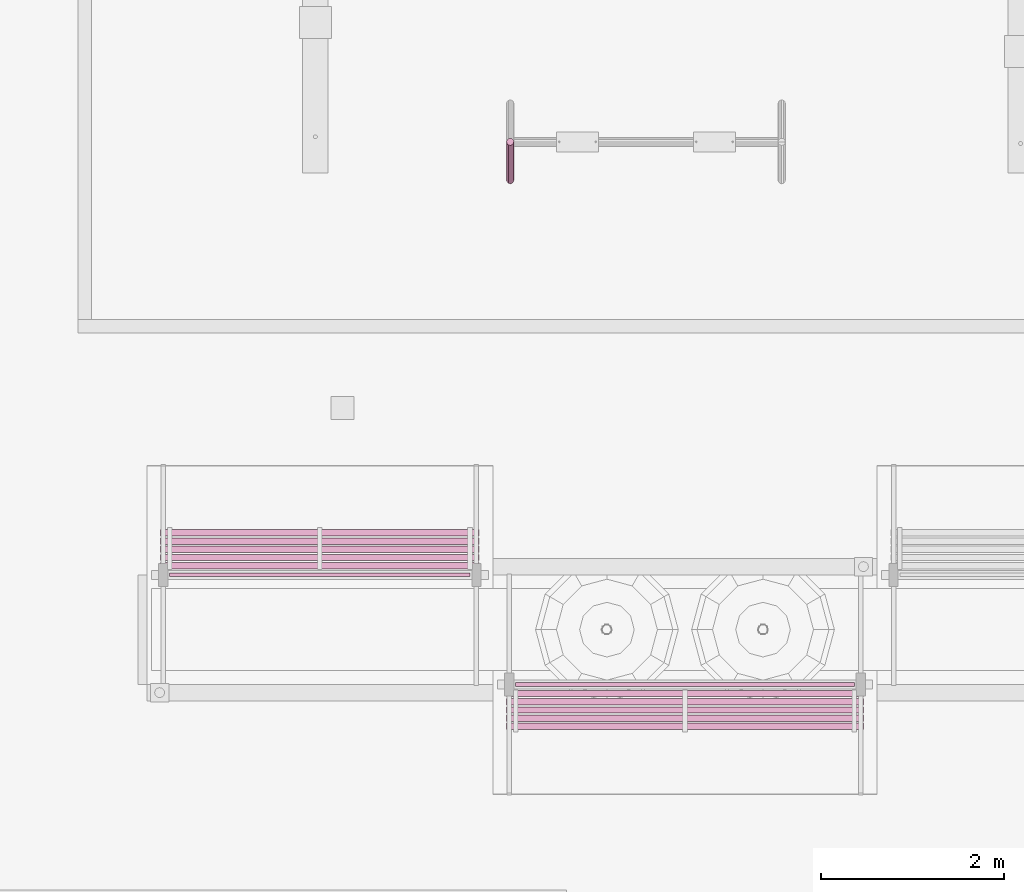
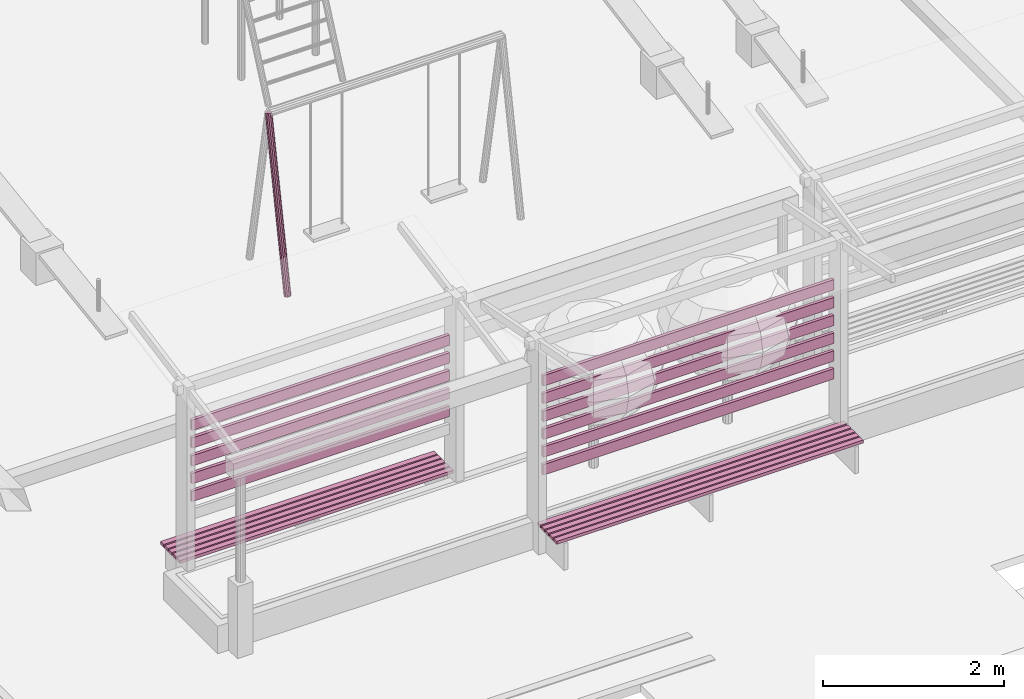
# One storey, part 144 of 177: 22 furnishings.
"""IFC4 building model written with IfcOpenShell, lengths in metres."""

from ifc_helpers import new_model, si_unit, origin, origin_with_axes, place, context, subcontext, project, spatial, triangles, element, save


model = new_model("IFC4")

# Units and contexts
model_context = context("Model", 3, precision=1e-05, world=origin_with_axes())
body_context = subcontext(model_context, "Body", "Model", "MODEL_VIEW")
ifc_project = project(units=[si_unit("LENGTHUNIT", "METRE"), si_unit("AREAUNIT", "SQUARE_METRE"), si_unit("VOLUMEUNIT", "CUBIC_METRE"), si_unit("PLANEANGLEUNIT", "RADIAN")], contexts=[model_context])

# Site, building, storey
site_placement = place(None, origin_with_axes())
site = spatial("IfcSite", under=ifc_project, at=site_placement, Name="Predio Los Mangos - Morales, San Martín", CompositionType="ELEMENT")
building_placement = place(site_placement, origin())
building = spatial("IfcBuilding", under=site, at=building_placement, Name="Hogar de Refugio Temporal", CompositionType="ELEMENT")
storey_placement = place(building_placement, origin())
storey = spatial("IfcBuildingStorey", under=building, at=storey_placement, Name="NIVEL 1 (NPT +0.00)", CompositionType="ELEMENT", Elevation=0.0)

# Furnishings
furnishing_1_placement = place(storey_placement, origin())
element("IfcFurnishingElement", 1, at=furnishing_1_placement, inside=storey, Name="columpio_pata", ObjectType="Mobiliario exterior / juegos", context=body_context, shape_type="Tessellation", body=[
    triangles([(32.885, 79.2847, 0.1374), (32.885, 79.7047, 2.3574), (32.865, 79.29, 0.1364), (32.865, 79.71, 2.3564), (32.8504, 79.3043, 0.1337), (32.8504, 79.7243, 2.3537), (32.845, 79.324, 0.13), (32.845, 79.744, 2.35), (32.8504, 79.3436, 0.1263), (32.8504, 79.7636, 2.3463), (32.865, 79.358, 0.1236), (32.865, 79.778, 2.3436), (32.885, 79.3633, 0.1226), (32.885, 79.7833, 2.3426), (32.905, 79.358, 0.1236), (32.905, 79.778, 2.3436), (32.9196, 79.3436, 0.1263), (32.9196, 79.7636, 2.3463), (32.925, 79.324, 0.13), (32.925, 79.744, 2.35), (32.9196, 79.3043, 0.1337), (32.9196, 79.7243, 2.3537), (32.905, 79.29, 0.1364), (32.905, 79.71, 2.3564)], [[1, 2, 4], [1, 4, 3], [3, 4, 6], [3, 6, 5], [5, 6, 8], [5, 8, 7], [7, 8, 10], [7, 10, 9], [9, 10, 12], [9, 12, 11], [11, 12, 14], [11, 14, 13], [13, 14, 16], [13, 16, 15], [15, 16, 18], [15, 18, 17], [17, 18, 20], [17, 20, 19], [19, 20, 22], [19, 22, 21], [6, 4, 2], [2, 24, 22], [22, 20, 18], [18, 16, 14], [14, 12, 10], [10, 8, 6], [6, 2, 22], [22, 18, 14], [14, 10, 6], [22, 14, 6], [21, 22, 24], [21, 24, 23], [23, 24, 2], [23, 2, 1], [23, 1, 3], [3, 5, 7], [7, 9, 11], [11, 13, 15], [15, 17, 19], [19, 21, 23], [23, 3, 7], [7, 11, 15], [15, 19, 23], [7, 15, 23]]),
])
furnishing_2_placement = place(storey_placement, origin())
element("IfcFurnishingElement", 2, at=furnishing_2_placement, inside=storey, Name="oc01_celosia", ObjectType="Mobiliario exterior / juegos", context=body_context, shape_type="Tessellation", body=[
    triangles([(36.655, 73.82, 1.05), (32.945, 73.82, 1.05), (32.945, 73.78, 1.05), (36.655, 73.78, 1.05), (36.655, 73.82, 1.19), (32.945, 73.82, 1.19), (32.945, 73.78, 1.19), (36.655, 73.78, 1.19)], [[1, 4, 3], [1, 3, 2], [5, 6, 7], [5, 7, 8], [1, 2, 6], [1, 6, 5], [2, 3, 7], [2, 7, 6], [3, 4, 8], [3, 8, 7], [4, 1, 5], [4, 5, 8]]),
])
furnishing_3_placement = place(storey_placement, origin())
element("IfcFurnishingElement", 3, at=furnishing_3_placement, inside=storey, Name="oc01_celosia", ObjectType="Mobiliario exterior / juegos", context=body_context, shape_type="Tessellation", body=[
    triangles([(36.655, 73.82, 1.29), (32.945, 73.82, 1.29), (32.945, 73.78, 1.29), (36.655, 73.78, 1.29), (36.655, 73.82, 1.43), (32.945, 73.82, 1.43), (32.945, 73.78, 1.43), (36.655, 73.78, 1.43)], [[1, 4, 3], [1, 3, 2], [5, 6, 7], [5, 7, 8], [1, 2, 6], [1, 6, 5], [2, 3, 7], [2, 7, 6], [3, 4, 8], [3, 8, 7], [4, 1, 5], [4, 5, 8]]),
])
furnishing_4_placement = place(storey_placement, origin())
element("IfcFurnishingElement", 4, at=furnishing_4_placement, inside=storey, Name="oc01_celosia", ObjectType="Mobiliario exterior / juegos", context=body_context, shape_type="Tessellation", body=[
    triangles([(36.655, 73.82, 1.53), (32.945, 73.82, 1.53), (32.945, 73.78, 1.53), (36.655, 73.78, 1.53), (36.655, 73.82, 1.67), (32.945, 73.82, 1.67), (32.945, 73.78, 1.67), (36.655, 73.78, 1.67)], [[1, 4, 3], [1, 3, 2], [5, 6, 7], [5, 7, 8], [1, 2, 6], [1, 6, 5], [2, 3, 7], [2, 7, 6], [3, 4, 8], [3, 8, 7], [4, 1, 5], [4, 5, 8]]),
])
furnishing_5_placement = place(storey_placement, origin())
element("IfcFurnishingElement", 5, at=furnishing_5_placement, inside=storey, Name="oc01_celosia", ObjectType="Mobiliario exterior / juegos", context=body_context, shape_type="Tessellation", body=[
    triangles([(36.655, 73.82, 1.77), (32.945, 73.82, 1.77), (32.945, 73.78, 1.77), (36.655, 73.78, 1.77), (36.655, 73.82, 1.91), (32.945, 73.82, 1.91), (32.945, 73.78, 1.91), (36.655, 73.78, 1.91)], [[1, 4, 3], [1, 3, 2], [5, 6, 7], [5, 7, 8], [1, 2, 6], [1, 6, 5], [2, 3, 7], [2, 7, 6], [3, 4, 8], [3, 8, 7], [4, 1, 5], [4, 5, 8]]),
])
furnishing_6_placement = place(storey_placement, origin())
element("IfcFurnishingElement", 6, at=furnishing_6_placement, inside=storey, Name="oc01_celosia", ObjectType="Mobiliario exterior / juegos", context=body_context, shape_type="Tessellation", body=[
    triangles([(36.655, 73.82, 2.01), (32.945, 73.82, 2.01), (32.945, 73.78, 2.01), (36.655, 73.78, 2.01), (36.655, 73.82, 2.15), (32.945, 73.82, 2.15), (32.945, 73.78, 2.15), (36.655, 73.78, 2.15)], [[1, 4, 3], [1, 3, 2], [5, 6, 7], [5, 7, 8], [1, 2, 6], [1, 6, 5], [2, 3, 7], [2, 7, 6], [3, 4, 8], [3, 8, 7], [4, 1, 5], [4, 5, 8]]),
])
furnishing_7_placement = place(storey_placement, origin())
element("IfcFurnishingElement", 7, at=furnishing_7_placement, inside=storey, Name="oc01_celosia", ObjectType="Mobiliario exterior / juegos", context=body_context, shape_type="Tessellation", body=[
    triangles([(36.655, 73.82, 2.25), (32.945, 73.82, 2.25), (32.945, 73.78, 2.25), (36.655, 73.78, 2.25), (36.655, 73.82, 2.39), (32.945, 73.82, 2.39), (32.945, 73.78, 2.39), (36.655, 73.78, 2.39)], [[1, 4, 3], [1, 3, 2], [5, 6, 7], [5, 7, 8], [1, 2, 6], [1, 6, 5], [2, 3, 7], [2, 7, 6], [3, 4, 8], [3, 8, 7], [4, 1, 5], [4, 5, 8]]),
])
furnishing_8_placement = place(storey_placement, origin())
element("IfcFurnishingElement", 8, at=furnishing_8_placement, inside=storey, Name="oc01_asiento", ObjectType="Mobiliario exterior / juegos", context=body_context, shape_type="Tessellation", body=[
    triangles([(36.755, 73.735, 0.44), (32.845, 73.735, 0.44), (32.845, 73.665, 0.44), (36.755, 73.665, 0.44), (36.755, 73.735, 0.48), (32.845, 73.735, 0.48), (32.845, 73.665, 0.48), (36.755, 73.665, 0.48)], [[1, 4, 3], [1, 3, 2], [5, 6, 7], [5, 7, 8], [1, 2, 6], [1, 6, 5], [2, 3, 7], [2, 7, 6], [3, 4, 8], [3, 8, 7], [4, 1, 5], [4, 5, 8]]),
])
furnishing_9_placement = place(storey_placement, origin())
element("IfcFurnishingElement", 9, at=furnishing_9_placement, inside=storey, Name="oc01_asiento", ObjectType="Mobiliario exterior / juegos", context=body_context, shape_type="Tessellation", body=[
    triangles([(36.755, 73.645, 0.44), (32.845, 73.645, 0.44), (32.845, 73.575, 0.44), (36.755, 73.575, 0.44), (36.755, 73.645, 0.48), (32.845, 73.645, 0.48), (32.845, 73.575, 0.48), (36.755, 73.575, 0.48)], [[1, 4, 3], [1, 3, 2], [5, 6, 7], [5, 7, 8], [1, 2, 6], [1, 6, 5], [2, 3, 7], [2, 7, 6], [3, 4, 8], [3, 8, 7], [4, 1, 5], [4, 5, 8]]),
])
furnishing_10_placement = place(storey_placement, origin())
element("IfcFurnishingElement", 10, at=furnishing_10_placement, inside=storey, Name="oc01_asiento", ObjectType="Mobiliario exterior / juegos", context=body_context, shape_type="Tessellation", body=[
    triangles([(36.755, 73.555, 0.44), (32.845, 73.555, 0.44), (32.845, 73.485, 0.44), (36.755, 73.485, 0.44), (36.755, 73.555, 0.48), (32.845, 73.555, 0.48), (32.845, 73.485, 0.48), (36.755, 73.485, 0.48)], [[1, 4, 3], [1, 3, 2], [5, 6, 7], [5, 7, 8], [1, 2, 6], [1, 6, 5], [2, 3, 7], [2, 7, 6], [3, 4, 8], [3, 8, 7], [4, 1, 5], [4, 5, 8]]),
])
furnishing_11_placement = place(storey_placement, origin())
element("IfcFurnishingElement", 11, at=furnishing_11_placement, inside=storey, Name="oc01_asiento", ObjectType="Mobiliario exterior / juegos", context=body_context, shape_type="Tessellation", body=[
    triangles([(36.755, 73.465, 0.44), (32.845, 73.465, 0.44), (32.845, 73.395, 0.44), (36.755, 73.395, 0.44), (36.755, 73.465, 0.48), (32.845, 73.465, 0.48), (32.845, 73.395, 0.48), (36.755, 73.395, 0.48)], [[1, 4, 3], [1, 3, 2], [5, 6, 7], [5, 7, 8], [1, 2, 6], [1, 6, 5], [2, 3, 7], [2, 7, 6], [3, 4, 8], [3, 8, 7], [4, 1, 5], [4, 5, 8]]),
])
furnishing_12_placement = place(storey_placement, origin())
element("IfcFurnishingElement", 12, at=furnishing_12_placement, inside=storey, Name="oc01_asiento", ObjectType="Mobiliario exterior / juegos", context=body_context, shape_type="Tessellation", body=[
    triangles([(36.755, 73.375, 0.44), (32.845, 73.375, 0.44), (32.845, 73.305, 0.44), (36.755, 73.305, 0.44), (36.755, 73.375, 0.48), (32.845, 73.375, 0.48), (32.845, 73.305, 0.48), (36.755, 73.305, 0.48)], [[1, 4, 3], [1, 3, 2], [5, 6, 7], [5, 7, 8], [1, 2, 6], [1, 6, 5], [2, 3, 7], [2, 7, 6], [3, 4, 8], [3, 8, 7], [4, 1, 5], [4, 5, 8]]),
])
furnishing_13_placement = place(storey_placement, origin())
element("IfcFurnishingElement", 13, at=furnishing_13_placement, inside=storey, Name="oc01_celosia", ObjectType="Mobiliario exterior / juegos", context=body_context, shape_type="Tessellation", body=[
    triangles([(32.445, 75.02, 1.29), (29.155, 75.02, 1.29), (29.155, 74.98, 1.29), (32.445, 74.98, 1.29), (32.445, 75.02, 1.43), (29.155, 75.02, 1.43), (29.155, 74.98, 1.43), (32.445, 74.98, 1.43)], [[1, 4, 3], [1, 3, 2], [5, 6, 7], [5, 7, 8], [1, 2, 6], [1, 6, 5], [2, 3, 7], [2, 7, 6], [3, 4, 8], [3, 8, 7], [4, 1, 5], [4, 5, 8]]),
])
furnishing_14_placement = place(storey_placement, origin())
element("IfcFurnishingElement", 14, at=furnishing_14_placement, inside=storey, Name="oc01_celosia", ObjectType="Mobiliario exterior / juegos", context=body_context, shape_type="Tessellation", body=[
    triangles([(32.445, 75.02, 1.53), (29.155, 75.02, 1.53), (29.155, 74.98, 1.53), (32.445, 74.98, 1.53), (32.445, 75.02, 1.67), (29.155, 75.02, 1.67), (29.155, 74.98, 1.67), (32.445, 74.98, 1.67)], [[1, 4, 3], [1, 3, 2], [5, 6, 7], [5, 7, 8], [1, 2, 6], [1, 6, 5], [2, 3, 7], [2, 7, 6], [3, 4, 8], [3, 8, 7], [4, 1, 5], [4, 5, 8]]),
])
furnishing_15_placement = place(storey_placement, origin())
element("IfcFurnishingElement", 15, at=furnishing_15_placement, inside=storey, Name="oc01_celosia", ObjectType="Mobiliario exterior / juegos", context=body_context, shape_type="Tessellation", body=[
    triangles([(32.445, 75.02, 1.77), (29.155, 75.02, 1.77), (29.155, 74.98, 1.77), (32.445, 74.98, 1.77), (32.445, 75.02, 1.91), (29.155, 75.02, 1.91), (29.155, 74.98, 1.91), (32.445, 74.98, 1.91)], [[1, 4, 3], [1, 3, 2], [5, 6, 7], [5, 7, 8], [1, 2, 6], [1, 6, 5], [2, 3, 7], [2, 7, 6], [3, 4, 8], [3, 8, 7], [4, 1, 5], [4, 5, 8]]),
])
furnishing_16_placement = place(storey_placement, origin())
element("IfcFurnishingElement", 16, at=furnishing_16_placement, inside=storey, Name="oc01_celosia", ObjectType="Mobiliario exterior / juegos", context=body_context, shape_type="Tessellation", body=[
    triangles([(32.445, 75.02, 2.01), (29.155, 75.02, 2.01), (29.155, 74.98, 2.01), (32.445, 74.98, 2.01), (32.445, 75.02, 2.15), (29.155, 75.02, 2.15), (29.155, 74.98, 2.15), (32.445, 74.98, 2.15)], [[1, 4, 3], [1, 3, 2], [5, 6, 7], [5, 7, 8], [1, 2, 6], [1, 6, 5], [2, 3, 7], [2, 7, 6], [3, 4, 8], [3, 8, 7], [4, 1, 5], [4, 5, 8]]),
])
furnishing_17_placement = place(storey_placement, origin())
element("IfcFurnishingElement", 17, at=furnishing_17_placement, inside=storey, Name="oc01_celosia", ObjectType="Mobiliario exterior / juegos", context=body_context, shape_type="Tessellation", body=[
    triangles([(32.445, 75.02, 2.25), (29.155, 75.02, 2.25), (29.155, 74.98, 2.25), (32.445, 74.98, 2.25), (32.445, 75.02, 2.39), (29.155, 75.02, 2.39), (29.155, 74.98, 2.39), (32.445, 74.98, 2.39)], [[1, 4, 3], [1, 3, 2], [5, 6, 7], [5, 7, 8], [1, 2, 6], [1, 6, 5], [2, 3, 7], [2, 7, 6], [3, 4, 8], [3, 8, 7], [4, 1, 5], [4, 5, 8]]),
])
furnishing_18_placement = place(storey_placement, origin())
element("IfcFurnishingElement", 18, at=furnishing_18_placement, inside=storey, Name="oc01_asiento", ObjectType="Mobiliario exterior / juegos", context=body_context, shape_type="Tessellation", body=[
    triangles([(32.545, 75.135, 0.44), (29.055, 75.135, 0.44), (29.055, 75.065, 0.44), (32.545, 75.065, 0.44), (32.545, 75.135, 0.48), (29.055, 75.135, 0.48), (29.055, 75.065, 0.48), (32.545, 75.065, 0.48)], [[1, 4, 3], [1, 3, 2], [5, 6, 7], [5, 7, 8], [1, 2, 6], [1, 6, 5], [2, 3, 7], [2, 7, 6], [3, 4, 8], [3, 8, 7], [4, 1, 5], [4, 5, 8]]),
])
furnishing_19_placement = place(storey_placement, origin())
element("IfcFurnishingElement", 19, at=furnishing_19_placement, inside=storey, Name="oc01_asiento", ObjectType="Mobiliario exterior / juegos", context=body_context, shape_type="Tessellation", body=[
    triangles([(32.545, 75.225, 0.44), (29.055, 75.225, 0.44), (29.055, 75.155, 0.44), (32.545, 75.155, 0.44), (32.545, 75.225, 0.48), (29.055, 75.225, 0.48), (29.055, 75.155, 0.48), (32.545, 75.155, 0.48)], [[1, 4, 3], [1, 3, 2], [5, 6, 7], [5, 7, 8], [1, 2, 6], [1, 6, 5], [2, 3, 7], [2, 7, 6], [3, 4, 8], [3, 8, 7], [4, 1, 5], [4, 5, 8]]),
])
furnishing_20_placement = place(storey_placement, origin())
element("IfcFurnishingElement", 20, at=furnishing_20_placement, inside=storey, Name="oc01_asiento", ObjectType="Mobiliario exterior / juegos", context=body_context, shape_type="Tessellation", body=[
    triangles([(32.545, 75.315, 0.44), (29.055, 75.315, 0.44), (29.055, 75.245, 0.44), (32.545, 75.245, 0.44), (32.545, 75.315, 0.48), (29.055, 75.315, 0.48), (29.055, 75.245, 0.48), (32.545, 75.245, 0.48)], [[1, 4, 3], [1, 3, 2], [5, 6, 7], [5, 7, 8], [1, 2, 6], [1, 6, 5], [2, 3, 7], [2, 7, 6], [3, 4, 8], [3, 8, 7], [4, 1, 5], [4, 5, 8]]),
])
furnishing_21_placement = place(storey_placement, origin())
element("IfcFurnishingElement", 21, at=furnishing_21_placement, inside=storey, Name="oc01_asiento", ObjectType="Mobiliario exterior / juegos", context=body_context, shape_type="Tessellation", body=[
    triangles([(32.545, 75.405, 0.44), (29.055, 75.405, 0.44), (29.055, 75.335, 0.44), (32.545, 75.335, 0.44), (32.545, 75.405, 0.48), (29.055, 75.405, 0.48), (29.055, 75.335, 0.48), (32.545, 75.335, 0.48)], [[1, 4, 3], [1, 3, 2], [5, 6, 7], [5, 7, 8], [1, 2, 6], [1, 6, 5], [2, 3, 7], [2, 7, 6], [3, 4, 8], [3, 8, 7], [4, 1, 5], [4, 5, 8]]),
])
furnishing_22_placement = place(storey_placement, origin())
element("IfcFurnishingElement", 22, at=furnishing_22_placement, inside=storey, Name="oc01_asiento", ObjectType="Mobiliario exterior / juegos", context=body_context, shape_type="Tessellation", body=[
    triangles([(32.545, 75.495, 0.44), (29.055, 75.495, 0.44), (29.055, 75.425, 0.44), (32.545, 75.425, 0.44), (32.545, 75.495, 0.48), (29.055, 75.495, 0.48), (29.055, 75.425, 0.48), (32.545, 75.425, 0.48)], [[1, 4, 3], [1, 3, 2], [5, 6, 7], [5, 7, 8], [1, 2, 6], [1, 6, 5], [2, 3, 7], [2, 7, 6], [3, 4, 8], [3, 8, 7], [4, 1, 5], [4, 5, 8]]),
])

save(model, "model.ifc")
